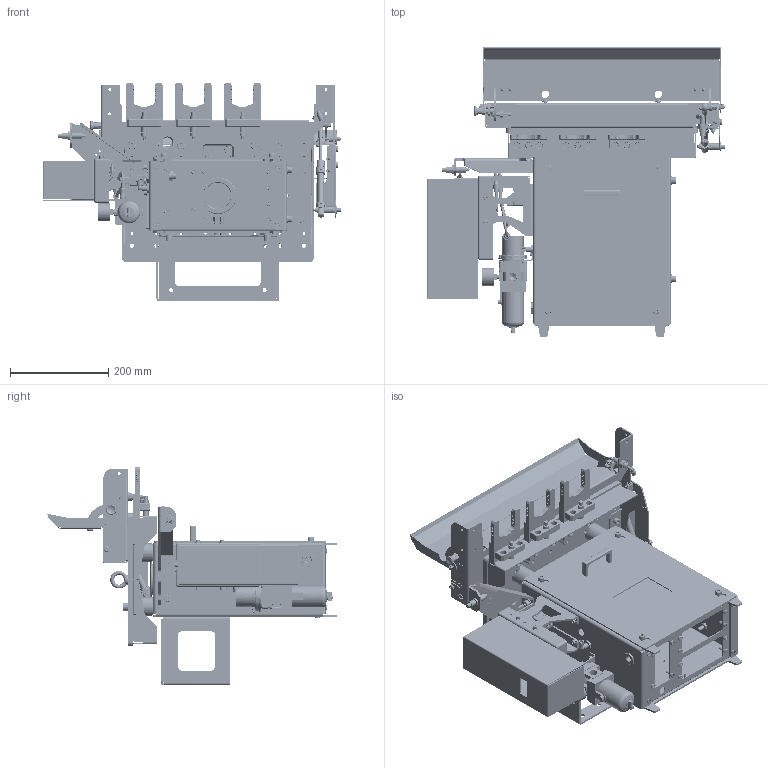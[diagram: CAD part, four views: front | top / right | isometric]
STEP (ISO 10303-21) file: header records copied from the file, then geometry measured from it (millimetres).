
FILE_DESCRIPTION((''),'2;1');
FILE_NAME('BH0023','2018-08-29T',('Licht.Sebastian'),('FRONIUS_International_GmbH'),'PRO/ENGINEER BY PARAMETRIC TECHNOLOGY CORPORATION, 2016100','PRO/ENGINEER BY PARAMETRIC TECHNOLOGY CORPORATION, 2016100','');
FILE_SCHEMA(('AUTOMOTIVE_DESIGN { 1 0 10303 214 1 1 1 1 }'));
Products named in the file (1): BH0023
Bounding box: 607.5 x 589.29 x 445 mm (x, y, z)
Volume: 5522692.6 mm3; surface area: 2210053.8 mm2
Topology: 3 solids, 12 shells, 9106 faces, 22640 edges, 14078 vertices
Faces by surface type: plane 3851, cylinder 2891, cone 1319, torus 839, sphere 87, bspline 76, extrusion 43
Entity records: 358997 total; most frequent: CARTESIAN_POINT 98889, DIRECTION 46369, ORIENTED_EDGE 44954, EDGE_CURVE 22477, AXIS2_PLACEMENT_3D 17551, VERTEX_POINT 14078, VECTOR 11267, LINE 11224
